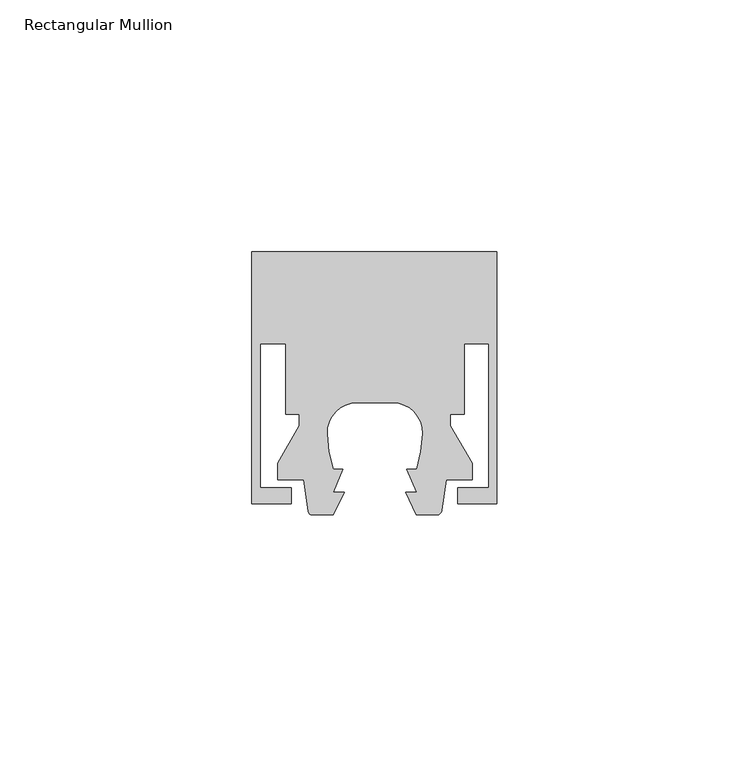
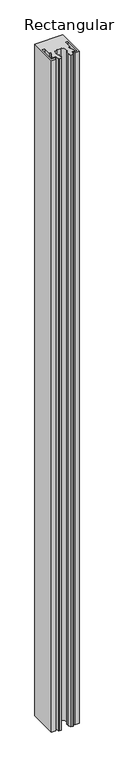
"""IFC4 building model written with IfcOpenShell, lengths in millimetres: member geometry, Rectangular Mullion : Danpal_Airpt."""

import ifcopenshell
import ifcopenshell.guid

model = None  # the IFC model being written
_history = None  # IfcOwnerHistory: only IFC2X3 demands one
_inside = {}  # id of a spatial element -> (the spatial element, [elements in it])
_under = {}  # id of a project, library or spatial element -> (it, [spatial elements below it])
_declared = {}  # id of a project -> (the project, [libraries it declares])
_typed = {}  # id of a type object -> (the type object, [elements of that type])
_made_of = {}  # id of a material, layer set ... -> (it, [elements and type objects made of it])


def new_model(schema):
    """Start an empty IFC model of exactly this schema.

    Asked for "IFC4X3", IfcOpenShell would pick the latest addendum, in which some entities
    have other attributes; the version numbers below select the first issue.
    IFC2X3 requires an IfcOwnerHistory on every rooted entity: one is made here for all.
    """
    global model, _history
    if schema == "IFC4X3":
        model = ifcopenshell.file(schema_version=(4, 3, 0, 0))
    else:
        model = ifcopenshell.file(schema=schema)
    _inside.clear()
    _under.clear()
    _declared.clear()
    _typed.clear()
    _made_of.clear()
    _history = None
    if model.schema == "IFC2X3":
        org = make("IfcOrganization", Name="unknown")
        user = make(
            "IfcPersonAndOrganization",
            ThePerson=make("IfcPerson", FamilyName="unknown"),
            TheOrganization=org,
        )
        app = make(
            "IfcApplication",
            ApplicationDeveloper=org,
            Version="unknown",
            ApplicationFullName="unknown",
            ApplicationIdentifier="unknown",
        )
        _history = make(
            "IfcOwnerHistory",
            OwningUser=user,
            OwningApplication=app,
            ChangeAction="ADDED",
            CreationDate=0,
        )
    return model


def make(cls, **values):
    """One entity of the class cls with the attributes given. An attribute that is None is left unset."""
    return model.create_entity(
        cls, **{name: value for name, value in values.items() if value is not None}
    )


def rooted(cls, **values):
    """An entity with a GlobalId (a new one), such as an element, a storey or a relation."""
    return make(cls, GlobalId=ifcopenshell.guid.new(), OwnerHistory=_history, **values)


def si_unit(unit_type, name, prefix=None):
    """IfcSIUnit, for example si_unit("LENGTHUNIT", "METRE", prefix="MILLI")."""
    return make("IfcSIUnit", UnitType=unit_type, Prefix=prefix, Name=name)


def assignment(units):
    """IfcUnitAssignment: the units of a project."""
    return None if units is None else make("IfcUnitAssignment", Units=units)


def point(xyz):
    """IfcCartesianPoint."""
    return None if xyz is None else make("IfcCartesianPoint", Coordinates=xyz)


def direction(xyz):
    """IfcDirection."""
    return None if xyz is None else make("IfcDirection", DirectionRatios=xyz)


def frame(location, z_axis=None, x_axis=None):
    """IfcAxis2Placement3D, a coordinate frame: its origin and axes. An axis left out is left unset."""
    return make(
        "IfcAxis2Placement3D",
        Location=point(location),
        Axis=direction(z_axis),
        RefDirection=direction(x_axis),
    )


def frame_2d(location, x_axis=None):
    """IfcAxis2Placement2D, a coordinate frame in the plane: its origin and x axis."""
    return make(
        "IfcAxis2Placement2D", Location=point(location), RefDirection=direction(x_axis)
    )


def origin():
    """The frame at (0, 0, 0) with its axes left unset."""
    return frame((0.0, 0.0, 0.0))


def place(relative_to, where):
    """IfcLocalPlacement: puts the frame where relative to a parent placement (None: the world)."""
    return make(
        "IfcLocalPlacement", PlacementRelTo=relative_to, RelativePlacement=where
    )


def context(
    kind, dimensions, precision=None, world=None, true_north=None, identifier=None
):
    """IfcGeometricRepresentationContext, for example the 3D "Model" context."""
    return make(
        "IfcGeometricRepresentationContext",
        ContextIdentifier=identifier,
        ContextType=kind,
        CoordinateSpaceDimension=dimensions,
        Precision=precision,
        WorldCoordinateSystem=world,
        TrueNorth=true_north,
    )


def project(units=None, contexts=None):
    """IfcProject with its units and contexts."""
    return rooted(
        "IfcProject",
        Name="project",
        RepresentationContexts=contexts,
        UnitsInContext=assignment(units),
    )


def spatial(cls, under=None, at=None, **own):
    """A site, building, storey or space (cls), placed at a placement, below another one or the project."""
    s = rooted(cls, ObjectPlacement=at, **own)
    if under is not None:
        _under.setdefault(under.id(), (under, []))[1].append(s)
    return s


def polyline(points):
    """IfcPolyline through the points."""
    return make("IfcPolyline", Points=[point(p) for p in points])


def circle_curve(where, radius):
    """IfcCircle in the frame where."""
    return make("IfcCircle", Position=where, Radius=radius)


def trimmed(basis, trim1, trim2, sense, master):
    """IfcTrimmedCurve: the piece of a basis curve between two trims."""
    return make(
        "IfcTrimmedCurve",
        BasisCurve=basis,
        Trim1=trim1,
        Trim2=trim2,
        SenseAgreement=sense,
        MasterRepresentation=master,
    )


def segment(curve, same_sense, transition):
    """IfcCompositeCurveSegment."""
    return make(
        "IfcCompositeCurveSegment",
        Transition=transition,
        SameSense=same_sense,
        ParentCurve=curve,
    )


def composite_curve(segments, self_intersect=None):
    """IfcCompositeCurve: segments joined end to end."""
    return make("IfcCompositeCurve", Segments=segments, SelfIntersect=self_intersect)


def outline(outer, holes=None, kind="AREA"):
    """IfcArbitraryClosedProfileDef: a profile drawn as a closed curve; with holes, ...WithVoids."""
    if holes is None:
        return make("IfcArbitraryClosedProfileDef", ProfileType=kind, OuterCurve=outer)
    return make(
        "IfcArbitraryProfileDefWithVoids",
        ProfileType=kind,
        OuterCurve=outer,
        InnerCurves=holes,
    )


def extrude(swept, where, along, depth):
    """IfcExtrudedAreaSolid: the profile swept, set in the frame where, extruded along a direction by depth."""
    return make(
        "IfcExtrudedAreaSolid",
        SweptArea=swept,
        Position=where,
        ExtrudedDirection=direction(along),
        Depth=depth,
    )


def shape(context_of_items, identifier, shape_type, items):
    """IfcShapeRepresentation: the items that make up one representation, for example the "Body"."""
    return make(
        "IfcShapeRepresentation",
        ContextOfItems=context_of_items,
        RepresentationIdentifier=identifier,
        RepresentationType=shape_type,
        Items=items,
    )


def source(mapping_origin, context_of_items, identifier, shape_type, items):
    """IfcRepresentationMap: a shape defined once, which mapped items show again and again."""
    return make(
        "IfcRepresentationMap",
        MappingOrigin=mapping_origin,
        MappedRepresentation=shape(context_of_items, identifier, shape_type, items),
    )


def transform(
    local_origin,
    x_axis=None,
    y_axis=None,
    z_axis=None,
    scale=None,
    scale2=None,
    scale3=None,
    uniform=True,
):
    """IfcCartesianTransformationOperator3D, or its non-uniform kind. x_axis, y_axis, z_axis: its Axis1, 2, 3."""
    if uniform:
        return make(
            "IfcCartesianTransformationOperator3D",
            Axis1=direction(x_axis),
            Axis2=direction(y_axis),
            LocalOrigin=point(local_origin),
            Scale=scale,
            Axis3=direction(z_axis),
        )
    return make(
        "IfcCartesianTransformationOperator3DnonUniform",
        Axis1=direction(x_axis),
        Axis2=direction(y_axis),
        LocalOrigin=point(local_origin),
        Scale=scale,
        Axis3=direction(z_axis),
        Scale2=scale2,
        Scale3=scale3,
    )


def mapped(mapping_source, mapping_target):
    """IfcMappedItem: shows the shape of a source again, moved by a transform."""
    return make(
        "IfcMappedItem", MappingSource=mapping_source, MappingTarget=mapping_target
    )


def made_of(thing, what):
    """Note that an element or type object is made of a material, layer set ...; save() writes the relation."""
    if what is not None:
        _made_of.setdefault(what.id(), (what, []))[1].append(thing)
    return thing


def element(
    cls,
    number,
    at=None,
    inside=None,
    cuts=None,
    type_object=None,
    material=None,
    context=None,
    identifier="Body",
    shape_type=None,
    held_by="IfcProductDefinitionShape",
    body=None,
    shapes=None,
    **own,
):
    """One element of the class cls, such as IfcWall. Its Tag is "e" and its number.

    at: its placement. inside: the storey or other place that contains it. cuts: it is an
    opening in that element (IfcRelVoidsElement). A single representation is given by context,
    identifier, shape_type and body (its items); several are given by shapes. held_by: the class
    of the entity that holds the representations. save() writes the other relations.
    """
    e = rooted(cls, Tag="e%d" % number, ObjectPlacement=at, **own)
    if body is not None:
        shapes = [shape(context, identifier, shape_type, body)]
    if shapes is not None:
        e.Representation = make(held_by, Representations=shapes)
    if inside is not None:
        _inside.setdefault(inside.id(), (inside, []))[1].append(e)
    if cuts is not None:
        rooted(
            "IfcRelVoidsElement", RelatingBuildingElement=cuts, RelatedOpeningElement=e
        )
    if type_object is not None:
        _typed.setdefault(type_object.id(), (type_object, []))[1].append(e)
    return made_of(e, material)


def aggregate(whole, parts):
    """IfcRelAggregates: a whole, such as a stair, and the parts it consists of."""
    return rooted("IfcRelAggregates", RelatingObject=whole, RelatedObjects=parts)


def save(model, path):
    """Write the relations noted so far, then the file.

    IfcRelAggregates (storeys below a building ...), IfcRelContainedInSpatialStructure (elements
    in a storey), IfcRelDefinesByType, IfcRelAssociatesMaterial and IfcRelDeclares: one each for
    every whole, place, type object, material and project.
    """
    for whole, parts in _under.values():
        aggregate(whole, parts)
    for where, things in _inside.values():
        rooted(
            "IfcRelContainedInSpatialStructure",
            RelatedElements=things,
            RelatingStructure=where,
        )
    for kind, things in _typed.values():
        rooted("IfcRelDefinesByType", RelatedObjects=things, RelatingType=kind)
    for what, things in _made_of.values():
        rooted("IfcRelAssociatesMaterial", RelatedObjects=things, RelatingMaterial=what)
    for by, libraries in _declared.values():
        rooted("IfcRelDeclares", RelatingContext=by, RelatedDefinitions=libraries)
    model.write(path)


def rectangular_mullion_99edbb54(model_context):
    return source(origin(), model_context, "Body", "SweptSolid", [
        extrude(outline(composite_curve([segment(polyline([(-16.6, 16.4), (-24.4, 16.4), (-24.4, 66.4), (24.2, 66.4), (24.2, 16.4), (16.4, 16.4), (16.4, 19.6), (22.6, 19.6), (22.6, 48.2), (17.7185077, 48.2), (17.7185077, 34.2), (14.9766663, 34.2), (14.9766663, 31.9202845), (19.2732051, 24.478461), (19.3, 21.2), (14.115585, 21.2)]), True, "CONTINUOUS"), segment(trimmed(circle_curve(frame_2d((-137.1078499, 38.5534788)), 152.215868), [point((14.115585, 21.2))], [point((13.2922905, 15.1127399))], False, "CARTESIAN"), True, "CONTINUOUS"), segment(trimmed(circle_curve(frame_2d((12.2262756, 15.2788845)), 1.0788845), [point((13.2922905, 15.1127399))], [point((12.2262756, 14.2))], False, "CARTESIAN"), True, "CONTINUOUS"), segment(polyline([(12.2262756, 14.2), (8.2308667, 14.2), (6.0782659, 18.7006239), (8.2858815, 18.7006239), (6.3614697, 23.2699289), (8.2778534, 23.2699289)]), True, "CONTINUOUS"), segment(trimmed(circle_curve(frame_2d((-16.4332098, 31.142799)), 25.9348941), [point((8.2778534, 23.2699289))], [point((9.488241, 30.3078647))], True, "CARTESIAN"), True, "CONTINUOUS"), segment(trimmed(circle_curve(frame_2d((3.5093751, 30.500445)), 5.9819667), [point((9.488241, 30.3078647))], [point((3.5093751, 36.4824117))], True, "CARTESIAN"), True, "CONTINUOUS"), segment(polyline([(3.5093751, 36.4824117), (-3.5093751, 36.4824117)]), True, "CONTINUOUS"), segment(trimmed(circle_curve(frame_2d((-3.5093751, 30.500445)), 5.9819667), [point((-3.5093751, 36.4824117))], [point((-9.488241, 30.3078647))], True, "CARTESIAN"), True, "CONTINUOUS"), segment(trimmed(circle_curve(frame_2d((16.4332098, 31.142799)), 25.9348941), [point((-9.488241, 30.3078647))], [point((-8.2778534, 23.2699289))], True, "CARTESIAN"), True, "CONTINUOUS"), segment(polyline([(-8.2778534, 23.2699289), (-6.3614697, 23.2699289), (-8.2858815, 18.7006239), (-6.0782659, 18.7006239), (-8.2308667, 14.2), (-12.3738214, 14.2)]), True, "CONTINUOUS"), segment(trimmed(circle_curve(frame_2d((-12.3738214, 15.1064765)), 0.9064765), [point((-12.3738214, 14.2))], [point((-13.2693482, 14.9660083))], False, "CARTESIAN"), True, "CONTINUOUS"), segment(trimmed(circle_curve(frame_2d((137.1078499, 38.5534788)), 152.215868), [point((-13.2693482, 14.9660083))], [point((-14.115585, 21.2))], False, "CARTESIAN"), True, "CONTINUOUS"), segment(polyline([(-14.115585, 21.2), (-19.3, 21.2), (-19.2732051, 24.478461), (-14.9766663, 31.9202845), (-14.9766663, 34.2), (-17.7185077, 34.2), (-17.7185077, 48.2), (-22.8, 48.2), (-22.8, 19.6), (-16.6, 19.6), (-16.6, 16.4)]), True, "CONTINUOUS")], self_intersect=False)), frame((0.0, 0.0, -1242.0137432), z_axis=(0.0, 0.0, 1.0), x_axis=(1.0, 0.0, 0.0)), (0.0, 0.0, 1.0), 1242.0137432),
    ])


if __name__ == "__main__":
    model = new_model("IFC4")
    model_context = context("Model", 3, world=origin())
    ifc_project = project(units=[si_unit("LENGTHUNIT", "METRE", prefix="MILLI")], contexts=[model_context])
    site = spatial("IfcSite", under=ifc_project)
    building = spatial("IfcBuilding", under=site)
    placement = place(None, origin())
    rectangular_mullion_shape = rectangular_mullion_99edbb54(model_context)
    element("IfcMember", 1, ObjectType="Rectangular Mullion : Danpal_Airpt", at=placement, inside=building, context=model_context, shape_type="MappedRepresentation", body=[
        mapped(rectangular_mullion_shape, transform((0.0, 0.0, 0.0), x_axis=(1.0, 0.0, 0.0), y_axis=(0.0, 1.0, 0.0), z_axis=(0.0, 0.0, 1.0))),
    ])
    save(model, "model.ifc")
